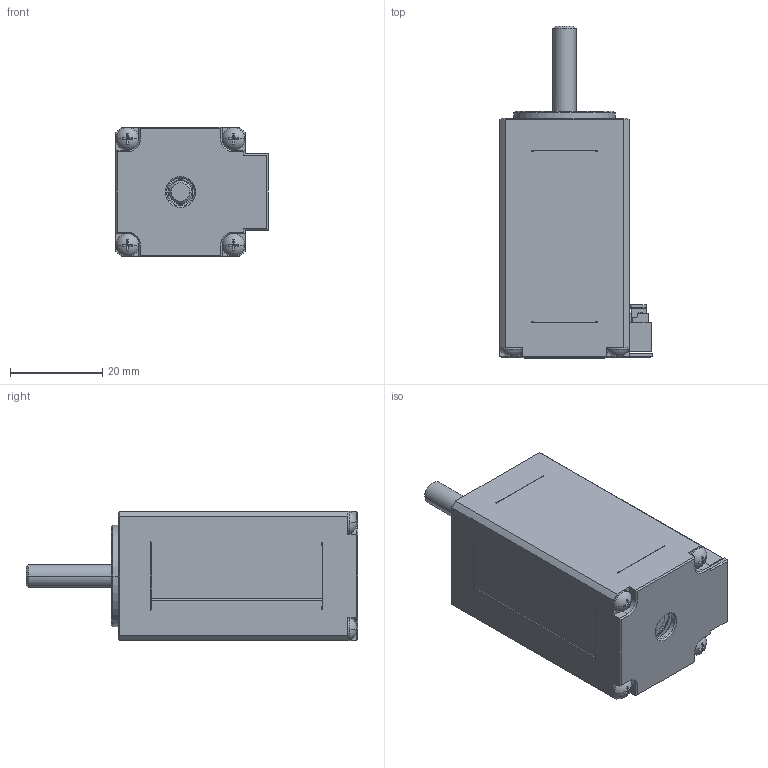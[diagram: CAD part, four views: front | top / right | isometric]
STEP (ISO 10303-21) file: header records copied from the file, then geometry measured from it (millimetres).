
FILE_DESCRIPTION((''),'2;1');
FILE_NAME('28STC51','2020-10-14T10:09:53',('zhangjq'),(''),'CREO PARAMETRIC BY PTC INC, 2017110','CREO PARAMETRIC BY PTC INC, 2017110','');
FILE_SCHEMA(('CONFIG_CONTROL_DESIGN'));
Products named in the file (1): 28STC51
Bounding box: 33 x 71.9 x 28 mm (x, y, z)
Volume: 23402.6 mm3; surface area: 33150.1 mm2
Topology: 3 solids, 3 shells, 2276 faces, 6618 edges, 4189 vertices
Faces by surface type: plane 1646, cylinder 512, cone 64, torus 28, bspline 18, sphere 8
Entity records: 76212 total; most frequent: CARTESIAN_POINT 14890, ORIENTED_EDGE 13236, DIRECTION 12487, EDGE_CURVE 6618, VECTOR 5073, LINE 5073, VERTEX_POINT 4189, AXIS2_PLACEMENT_3D 3707
